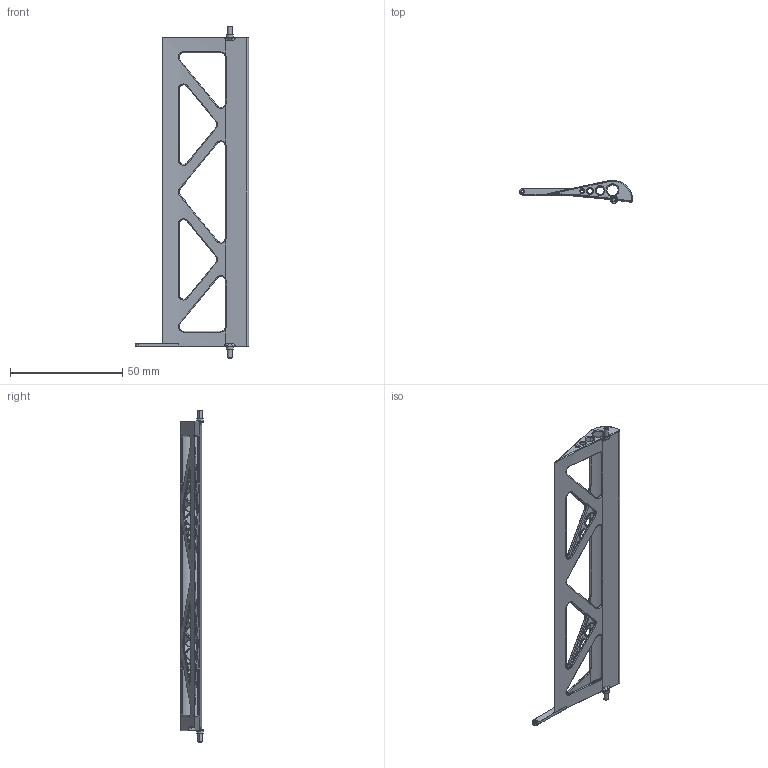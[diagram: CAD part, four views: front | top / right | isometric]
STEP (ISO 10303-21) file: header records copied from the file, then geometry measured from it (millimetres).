
FILE_DESCRIPTION (( 'STEP AP203' ), '1' );
FILE_NAME ('06-12-004-002.STEP', '2019-02-25T09:17:12', ( '' ), ( '' ), 'SwSTEP 2.0', 'SolidWorks 2014', '' );
FILE_SCHEMA (( 'CONFIG_CONTROL_DESIGN' ));
Products named in the file (1): 06-12-004-002
Bounding box: 50.47 x 10.09 x 147.8 mm (x, y, z)
Volume: 5200.9 mm3; surface area: 14448 mm2
Topology: 1 solids, 1 shells, 492 faces, 1218 edges, 697 vertices
Faces by surface type: bspline 286, cylinder 91, torus 66, plane 32, sphere 17
Entity records: 28432 total; most frequent: CARTESIAN_POINT 18808, ORIENTED_EDGE 2400, DIRECTION 1552, EDGE_CURVE 1200, AXIS2_PLACEMENT_3D 710, VERTEX_POINT 689, EDGE_LOOP 531, CIRCLE 503
